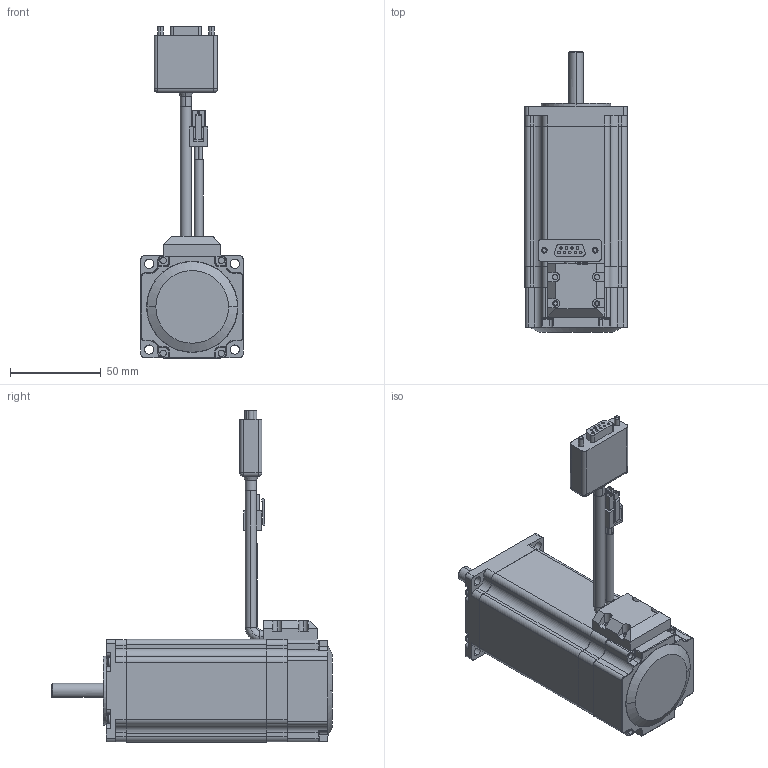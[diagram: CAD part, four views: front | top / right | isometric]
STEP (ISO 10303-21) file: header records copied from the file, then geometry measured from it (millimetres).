
FILE_DESCRIPTION (( 'STEP AP203' ), '1' );
FILE_NAME ('57HS2125-03.STEP', '2020-09-10T03:53:44', ( 'Windows' ), ( 'Microsoft' ), 'SwSTEP 2.0', 'SolidWorks 2015', '' );
FILE_SCHEMA (( 'CONFIG_CONTROL_DESIGN' ));
Length unit declared in the file: millimetre
Products named in the file (10): 57HS2125-03; 57ヶ傷裔; 57綴傷裔; 粣; M3蹟隊; 23x14.5邧揤盄裔; 晤鎢ん綴欶; HX42000-4R; DBͷ; 57隅赽32
Assembly tree (12 placements, depth 2):
  57HS2125-03
    57隅赽32
    57ヶ傷裔
    57綴傷裔
    粣
    M3蹟隊  x4
    23x14.5邧揤盄裔
    晤鎢ん綴欶
    HX42000-4R
    DBͷ
Bounding box: 56.4 x 154.3 x 182.6 mm (x, y, z)
Volume: 338537.2 mm3; surface area: 71726.8 mm2
Topology: 16 solids, 16 shells, 701 faces, 1741 edges, 1102 vertices
Faces by surface type: plane 328, cylinder 294, torus 51, cone 12, sphere 12, bspline 4
Entity records: 20100 total; most frequent: CARTESIAN_POINT 3449, DIRECTION 3420, ORIENTED_EDGE 3116, EDGE_CURVE 1558, AXIS2_PLACEMENT_3D 1245, VERTEX_POINT 994, VECTOR 930, LINE 930
